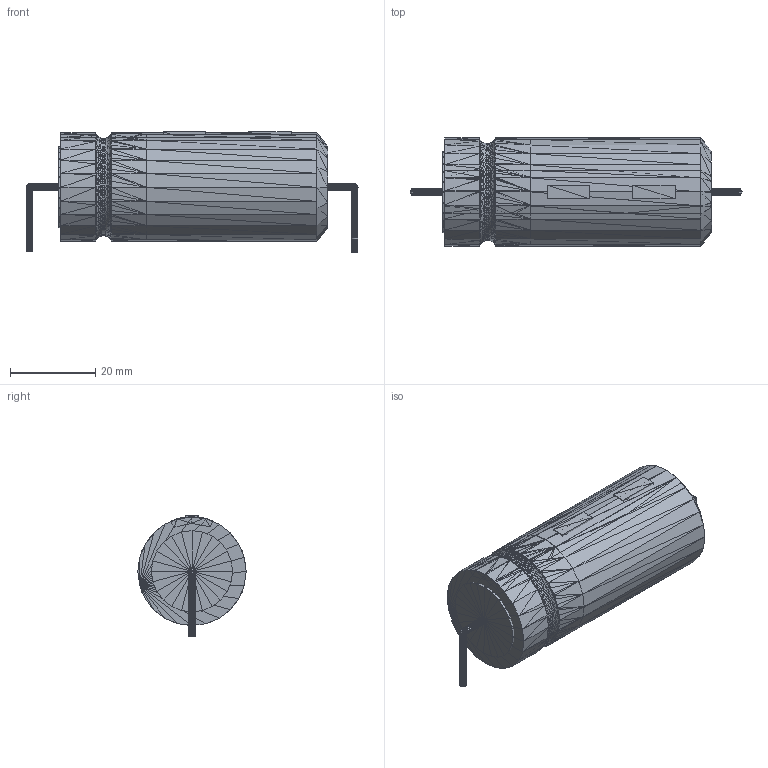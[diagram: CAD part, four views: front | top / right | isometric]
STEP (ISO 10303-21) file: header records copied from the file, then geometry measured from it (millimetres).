
FILE_DESCRIPTION(('HOOPS Exchange Step'),'2;1');
FILE_NAME('***.stp');
FILE_SCHEMA( ('AP242_MANAGED_MODEL_BASED_3D_ENGINEERING_MIM_LF {1 0 10303 442 1 1 4 }') );
Length unit declared in the file: inch
Products named in the file (16): AXPOLCAPXLG_2; AXPOLCAPXLG_3; AXPOLCAPXLG_4; AXPOLCAPXLG_5; AXPOLCAPXLG_6; AXPOLCAPXLG_7; AXPOLCAPXLG_8; AXPOLCAPXLG_9; AXPOLCAPXLG_10; AXPOLCAPXLG_11; AXPOLCAPXLG_12; AXPOLCAPXLG_13; AXPOLCAPXLG_14; AXPOLCAPXLG_15; AXPOLCAPXLG_16; AXPOLCAPXLG
Assembly tree (15 placements, depth 2):
  AXPOLCAPXLG
    AXPOLCAPXLG_2
    AXPOLCAPXLG_3
    AXPOLCAPXLG_4
    AXPOLCAPXLG_5
    AXPOLCAPXLG_6
    AXPOLCAPXLG_7
    AXPOLCAPXLG_8
    AXPOLCAPXLG_9
    AXPOLCAPXLG_10
    AXPOLCAPXLG_11
    AXPOLCAPXLG_12
    AXPOLCAPXLG_13
    AXPOLCAPXLG_14
    AXPOLCAPXLG_15
    AXPOLCAPXLG_16
Bounding box: 77.83 x 25.4 x 28.22 mm (x, y, z)
Volume: 31842.3 mm3; surface area: 10970.5 mm2
Topology: 14 solids, 16 shells, 3001 faces, 4512 edges, 1539 vertices
Faces by surface type: plane 3001
Entity records: 59336 total; most frequent: DIRECTION 10578, CARTESIAN_POINT 9084, ORIENTED_EDGE 9003, VECTOR 4512, LINE 4512, EDGE_CURVE 4512, AXIS2_PLACEMENT_3D 3033, PLANE 3001
